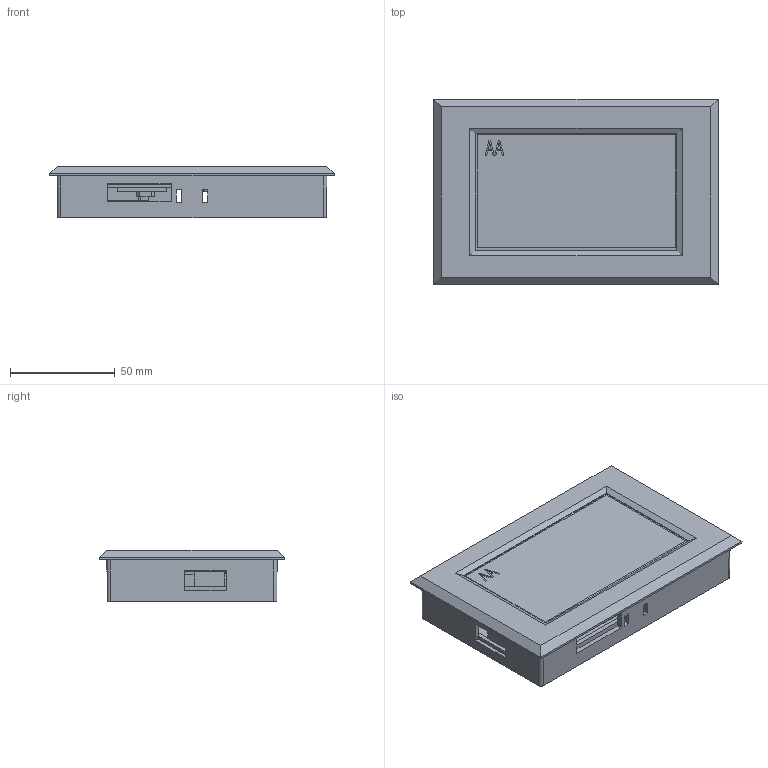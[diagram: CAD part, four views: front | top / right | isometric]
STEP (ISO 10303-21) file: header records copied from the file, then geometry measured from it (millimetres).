
FILE_DESCRIPTION(/* description */ (''),/* implementation_level */ '2;1');
FILE_NAME(/* name */ '3D_SDWa043Sx3.stp',/* time_stamp */ '2020-10-12T16:57:40+08:00',/* author */ (''),/* organization */ (''),/* preprocessor_version */ 'ST-DEVELOPER v15',/* originating_system */ 'SIEMENS PLM Software NX 8.5',/* authorisation */ '');
FILE_SCHEMA (('AP203_CONFIGURATION_CONTROLLED_3D_DESIGN_OF_MECHANICAL_PARTS_AND_ASSEMBLIES_MIM_LF { 1 0 10303 403 2 1 2}'));
Length unit declared in the file: millimetre
Products named in the file (5): M3X6612; SDWa043Sx3_stp614; luosi_MODEL615; 4.3613; 3D_SDWa043Sx3_stp
Assembly tree (7 placements, depth 4):
  3D_SDWa043Sx3_stp
    SDWa043Sx3_stp614
    4.3613
      luosi_MODEL615  x4
        M3X6612
Bounding box: 135.9 x 88.5 x 24.5 mm (x, y, z)
Volume: 118377.5 mm3; surface area: 131264.6 mm2
Topology: 302 solids, 302 shells, 2298 faces, 5005 edges, 3338 vertices
Faces by surface type: plane 2002, cylinder 174, bspline 80, cone 24, extrusion 10, sphere 4, torus 4
Full cylindrical faces by diameter (mm): 2 x4, 2.874 x4, 3 x4, 3.2 x12, 5.6 x4, 6.522 x1, 6.557 x1, 7 x12
Entity records: 63019 total; most frequent: CARTESIAN_POINT 10677, DIRECTION 9374, ORIENTED_EDGE 9344, EDGE_CURVE 4672, VECTOR 4230, LINE 4220, VERTEX_POINT 3149, AXIS2_PLACEMENT_3D 2572
